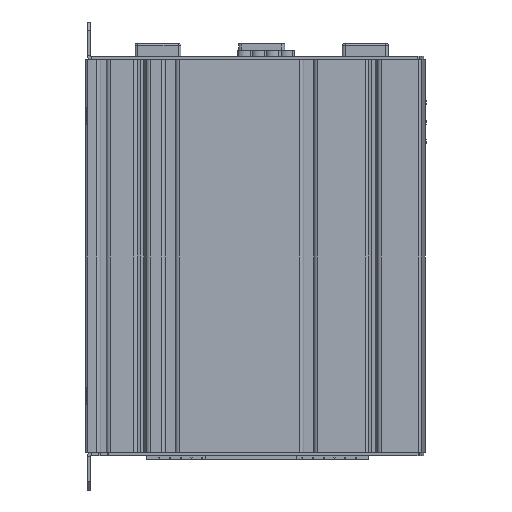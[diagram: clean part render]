
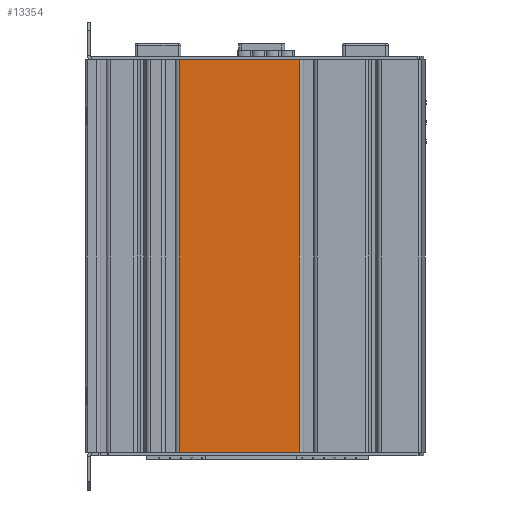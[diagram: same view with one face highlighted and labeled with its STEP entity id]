
A CAD part, left-side view. The second image highlights one B-rep face of the part: STEP entity #13354.
In plain terms, the highlighted planar face has unit normal (-1, 0, 0).
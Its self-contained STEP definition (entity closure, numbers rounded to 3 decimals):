
#8938 = EDGE_CURVE ( 'NONE', #8942, #8943, #13237, .T. ) ;
#8942 = VERTEX_POINT ( 'NONE', #13230 ) ;
#8943 = VERTEX_POINT ( 'NONE', #13228 ) ;
#9023 = VERTEX_POINT ( 'NONE', #13486 ) ;
#9068 = EDGE_CURVE ( 'NONE', #9070, #9023, #13666, .T. ) ;
#9070 = VERTEX_POINT ( 'NONE', #13650 ) ;
#13228 = CARTESIAN_POINT ( 'NONE',  ( -27.5, 26.7, -70. ) ) ;
#13230 = CARTESIAN_POINT ( 'NONE',  ( -27.5, 26.7, 70. ) ) ;
#13231 = DIRECTION ( 'NONE',  ( 0., 0., -1. ) ) ;
#13233 = VECTOR ( 'NONE', #13231, 1000. ) ;
#13235 = CARTESIAN_POINT ( 'NONE',  ( -27.5, 26.7, 70. ) ) ;
#13237 = LINE ( 'NONE', #13235, #13233 ) ;
#13320 = EDGE_CURVE ( 'NONE', #8942, #9023, #34144, .T. ) ;
#13354 = ADVANCED_FACE ( 'NONE', ( #34266 ), #34226, .T. ) ;
#13355 = EDGE_LOOP ( 'NONE', ( #13356, #13357, #13361, #13454 ) ) ;
#13356 = ORIENTED_EDGE ( 'NONE', *, *, #8938, .T. ) ;
#13357 = ORIENTED_EDGE ( 'NONE', *, *, #13359, .T. ) ;
#13359 = EDGE_CURVE ( 'NONE', #8943, #9070, #34358, .T. ) ;
#13361 = ORIENTED_EDGE ( 'NONE', *, *, #9068, .T. ) ;
#13454 = ORIENTED_EDGE ( 'NONE', *, *, #13320, .F. ) ;
#13486 = CARTESIAN_POINT ( 'NONE',  ( -27.5, -16.3, 70. ) ) ;
#13650 = CARTESIAN_POINT ( 'NONE',  ( -27.5, -16.3, -70. ) ) ;
#13652 = DIRECTION ( 'NONE',  ( 0., 0., 1. ) ) ;
#13653 = VECTOR ( 'NONE', #13652, 1000. ) ;
#13655 = CARTESIAN_POINT ( 'NONE',  ( -27.5, -16.3, 70. ) ) ;
#13666 = LINE ( 'NONE', #13655, #13653 ) ;
#34136 = DIRECTION ( 'NONE',  ( 0., -1., 0. ) ) ;
#34138 = VECTOR ( 'NONE', #34136, 1000. ) ;
#34140 = CARTESIAN_POINT ( 'NONE',  ( -27.5, 0., 70. ) ) ;
#34144 = LINE ( 'NONE', #34140, #34138 ) ;
#34226 = PLANE ( 'NONE',  #34357 ) ;
#34266 = FACE_OUTER_BOUND ( 'NONE', #13355, .T. ) ;
#34344 = DIRECTION ( 'NONE',  ( 0., -1., 0. ) ) ;
#34345 = VECTOR ( 'NONE', #34344, 1000. ) ;
#34347 = CARTESIAN_POINT ( 'NONE',  ( -27.5, 60., -70. ) ) ;
#34351 = DIRECTION ( 'NONE',  ( 0., 0., 1. ) ) ;
#34353 = DIRECTION ( 'NONE',  ( -1., 0., 0. ) ) ;
#34355 = CARTESIAN_POINT ( 'NONE',  ( -27.5, 60., 70. ) ) ;
#34357 = AXIS2_PLACEMENT_3D ( 'NONE', #34355, #34353, #34351 ) ;
#34358 = LINE ( 'NONE', #34347, #34345 ) ;
